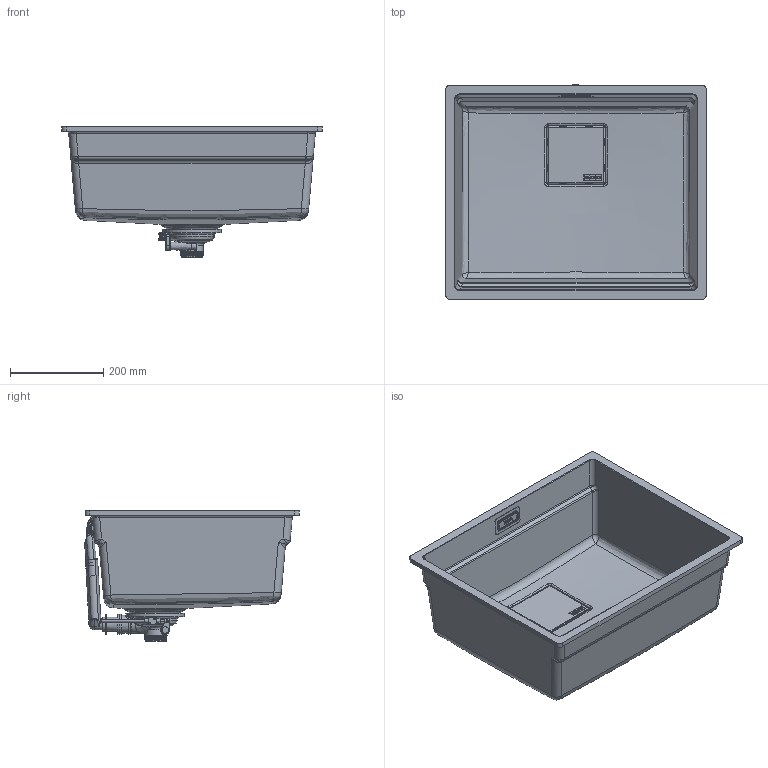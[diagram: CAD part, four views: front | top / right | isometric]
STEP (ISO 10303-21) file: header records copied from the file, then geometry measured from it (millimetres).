
FILE_DESCRIPTION(/* description */ (''),/* implementation_level */ '2;1');
FILE_NAME(/* name */ '3D001_Sinks_Kubus-2_KNG-110-52',/* time_stamp */ '2024-11-18T09:12:11+01:00',/* author */ (''),/* organization */ (''),/* preprocessor_version */ 'ST-DEVELOPER v19.2',/* originating_system */ 'Rhino 8.9',/* authorisation */ '');
FILE_SCHEMA (('CONFIG_CONTROL_DESIGN'));
Products named in the file (3): Document; Blocco 01; LOGO_SOLOBORDO_COPRISCARICO
Bounding box: 560 x 461.06 x 280.16 mm (x, y, z)
Volume: 4378459.3 mm3; surface area: 1264841.6 mm2
Topology: 13 solids, 21 shells, 2561 faces, 7045 edges, 4591 vertices
Faces by surface type: plane 1651, cylinder 481, bspline 429
Full cylindrical faces by diameter (mm): 5 x3, 6 x1, 7.5 x3, 8 x1, 14 x2, 23.8 x1, 24 x1, 30 x3, 36 x1, 39 x1, 42 x3, 45 x1, 48 x1, 83.403 x1, 84 x1, 90 x1, 126 x1
Entity records: 106130 total; most frequent: CARTESIAN_POINT 51955, ORIENTED_EDGE 13857, EDGE_CURVE 7013, DIRECTION 5824, B_SPLINE_CURVE_WITH_KNOTS 4683, VERTEX_POINT 4591, AXIS2_PLACEMENT_3D 3978, EDGE_LOOP 2706
